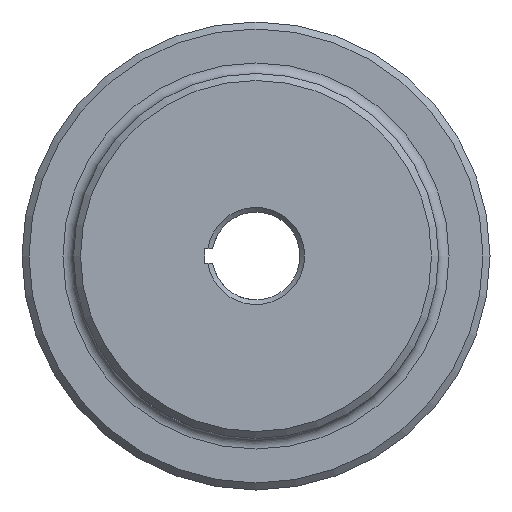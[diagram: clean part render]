
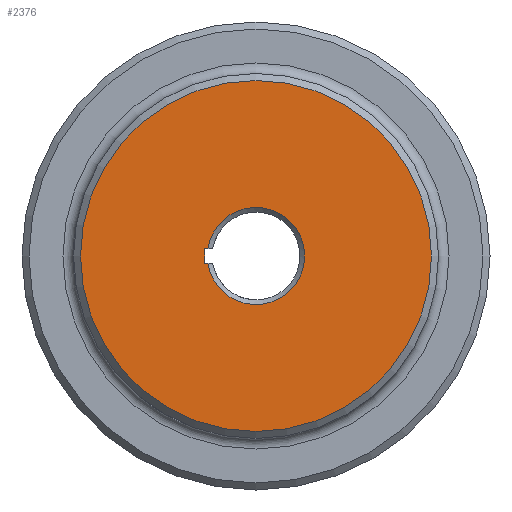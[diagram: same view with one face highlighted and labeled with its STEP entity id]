
A CAD part, left-side view. The second image highlights one B-rep face of the part: STEP entity #2376.
In plain terms, the highlighted planar face has unit normal (-1, 0, 0).
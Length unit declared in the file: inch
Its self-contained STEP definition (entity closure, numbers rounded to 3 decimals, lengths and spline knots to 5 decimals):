
#76 = VECTOR ( 'NONE', #1270, 39.37008 ) ;
#82 = VERTEX_POINT ( 'NONE', #685 ) ;
#111 = CARTESIAN_POINT ( 'NONE',  ( 0., 0.43785, 0.0625 ) ) ;
#119 = CARTESIAN_POINT ( 'NONE',  ( 0., 0., 0. ) ) ;
#133 = ORIENTED_EDGE ( 'NONE', *, *, #1887, .F. ) ;
#162 = DIRECTION ( 'NONE',  ( 0., -1., 0. ) ) ;
#349 = DIRECTION ( 'NONE',  ( -1., 0., 0. ) ) ;
#366 = ORIENTED_EDGE ( 'NONE', *, *, #1982, .T. ) ;
#419 = EDGE_CURVE ( 'NONE', #2288, #1701, #905, .T. ) ;
#425 = CARTESIAN_POINT ( 'NONE',  ( 0., 0., 0.0625 ) ) ;
#447 = DIRECTION ( 'NONE',  ( 1., 0., 0. ) ) ;
#685 = CARTESIAN_POINT ( 'NONE',  ( 0., 0.41042, 0.0625 ) ) ;
#808 = LINE ( 'NONE', #852, #1067 ) ;
#823 = CARTESIAN_POINT ( 'NONE',  ( 0., 0., 0. ) ) ;
#850 = EDGE_LOOP ( 'NONE', ( #133, #366, #894, #1614 ) ) ;
#852 = CARTESIAN_POINT ( 'NONE',  ( 0., 0., -0.0625 ) ) ;
#894 = ORIENTED_EDGE ( 'NONE', *, *, #903, .F. ) ;
#899 = AXIS2_PLACEMENT_3D ( 'NONE', #823, #349, #1404 ) ;
#903 = EDGE_CURVE ( 'NONE', #1701, #2290, #808, .T. ) ;
#905 = LINE ( 'NONE', #2070, #76 ) ;
#937 = ORIENTED_EDGE ( 'NONE', *, *, #1939, .T. ) ;
#944 = LINE ( 'NONE', #425, #1476 ) ;
#1035 = CARTESIAN_POINT ( 'NONE',  ( 0., 0.41042, -0.0625 ) ) ;
#1067 = VECTOR ( 'NONE', #162, 39.37008 ) ;
#1241 = FACE_OUTER_BOUND ( 'NONE', #2052, .T. ) ;
#1270 = DIRECTION ( 'NONE',  ( 0., 0., -1. ) ) ;
#1282 = VERTEX_POINT ( 'NONE', #1599 ) ;
#1404 = DIRECTION ( 'NONE',  ( 0., 0., -1. ) ) ;
#1412 = CARTESIAN_POINT ( 'NONE',  ( 0., 0., 0. ) ) ;
#1476 = VECTOR ( 'NONE', #1749, 39.37008 ) ;
#1599 = CARTESIAN_POINT ( 'NONE',  ( 0., 0., -1.5 ) ) ;
#1614 = ORIENTED_EDGE ( 'NONE', *, *, #419, .F. ) ;
#1688 = DIRECTION ( 'NONE',  ( 0., 0., -1. ) ) ;
#1696 = CIRCLE ( 'NONE', #2109, 0.41515 ) ;
#1701 = VERTEX_POINT ( 'NONE', #1945 ) ;
#1714 = DIRECTION ( 'NONE',  ( 1., 0., 0. ) ) ;
#1749 = DIRECTION ( 'NONE',  ( 0., 1., 0. ) ) ;
#1831 = AXIS2_PLACEMENT_3D ( 'NONE', #1412, #1714, #2272 ) ;
#1887 = EDGE_CURVE ( 'NONE', #82, #2288, #944, .T. ) ;
#1939 = EDGE_CURVE ( 'NONE', #1282, #1282, #2329, .T. ) ;
#1945 = CARTESIAN_POINT ( 'NONE',  ( 0., 0.43785, -0.0625 ) ) ;
#1946 = FACE_BOUND ( 'NONE', #850, .T. ) ;
#1982 = EDGE_CURVE ( 'NONE', #82, #2290, #1696, .T. ) ;
#2052 = EDGE_LOOP ( 'NONE', ( #937 ) ) ;
#2070 = CARTESIAN_POINT ( 'NONE',  ( 0., 0.43785, -0.0625 ) ) ;
#2109 = AXIS2_PLACEMENT_3D ( 'NONE', #119, #447, #1688 ) ;
#2272 = DIRECTION ( 'NONE',  ( 0., 0., -1. ) ) ;
#2288 = VERTEX_POINT ( 'NONE', #111 ) ;
#2290 = VERTEX_POINT ( 'NONE', #1035 ) ;
#2329 = CIRCLE ( 'NONE', #899, 1.5 ) ;
#2376 = ADVANCED_FACE ( 'NONE', ( #1241, #1946 ), #2381, .F. ) ;
#2381 = PLANE ( 'NONE',  #1831 ) ;
